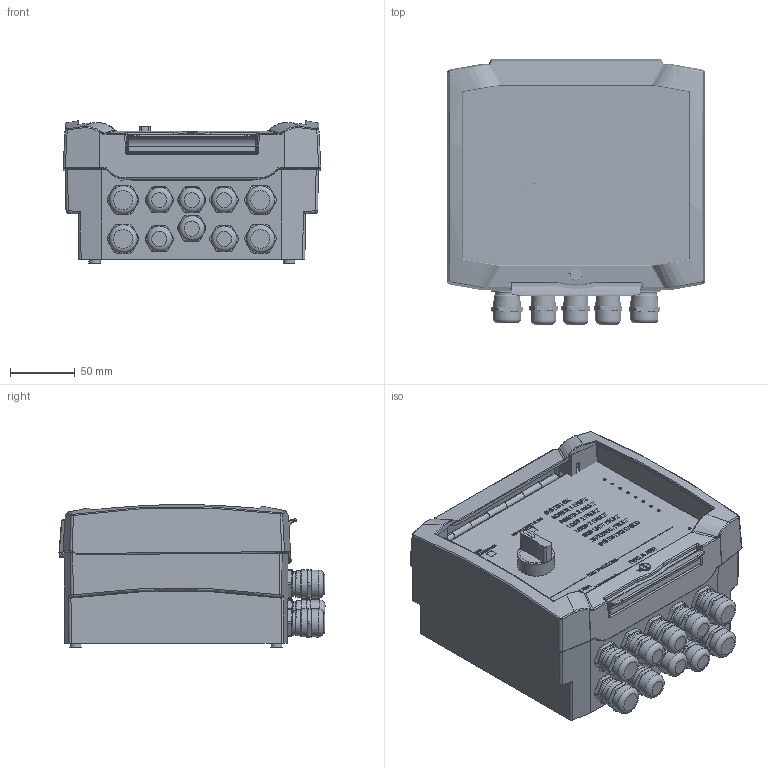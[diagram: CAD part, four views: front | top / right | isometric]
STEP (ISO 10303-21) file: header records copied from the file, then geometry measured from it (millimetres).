
FILE_DESCRIPTION(/* description */ ('FS12'),/* implementation_level */ '2;1');
FILE_NAME(/* name */ 'C:\Users\tokti\AppData\Local\Temp\grq02mru.f1v\2878010012290.stp',/* time_stamp */ '2023-05-09T16:28:54+02:00',/* author */ ('thp'),/* organization */ (''),/* preprocessor_version */ 'ST-DEVELOPER v18.1',/* originating_system */ 'Autodesk Inventor 2020',/* authorisation */ '');
FILE_SCHEMA (('AUTOMOTIVE_DESIGN { 1 0 10303 214 3 1 1 }'));
Products named in the file (7): 2878010012290; 287898010012288; 287898010012289; 287898990012287; 287899020012272; 287898030012282; 287898030012297
Assembly tree (14 placements, depth 2):
  2878010012290
    287898010012288
    287898010012289
    287898990012287
    287899020012272
    287898030012282  x4
    287898030012297  x6
Bounding box: 199 x 205.39 x 110.11 mm (x, y, z)
Volume: 550888.1 mm3; surface area: 411752.8 mm2
Topology: 17 solids, 17 shells, 6811 faces, 18103 edges, 11758 vertices
Faces by surface type: plane 4363, bspline 1067, cylinder 811, cone 391, sphere 121, torus 58
Full cylindrical faces by diameter (mm): 2 x2, 2.15 x8, 3 x1, 4 x3, 5.2 x4, 5.462 x1, 6 x6, 6.95 x1, 13.93 x6, 15.968 x6, 17.16 x6, 18.3 x4, 18.5 x6, 18.96 x4, 19.6 x12, 19.85 x4, 20.3 x4, 21.7 x8, 21.75 x1, 28.5 x1
Entity records: 239832 total; most frequent: CARTESIAN_POINT 84197, ORIENTED_EDGE 33652, DIRECTION 27599, EDGE_CURVE 16826, LINE 12137, VECTOR 12137, VERTEX_POINT 10999, AXIS2_PLACEMENT_3D 7731
